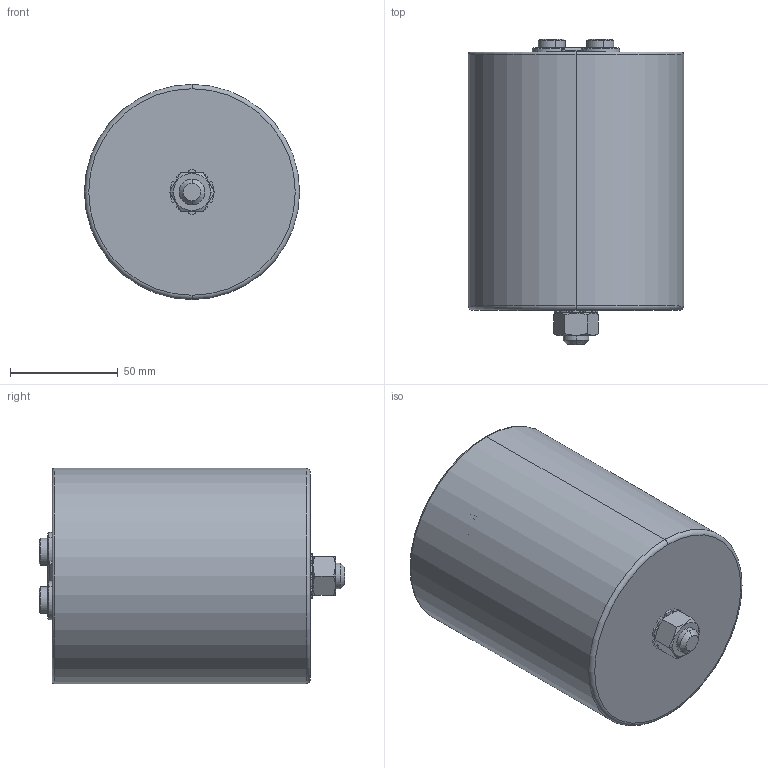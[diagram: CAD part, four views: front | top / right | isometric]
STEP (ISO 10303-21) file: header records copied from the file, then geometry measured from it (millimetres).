
FILE_DESCRIPTION (( 'STEP AP203' ), '1' );
FILE_NAME ('B25690Ax_100x120_126.STEP', '2021-09-06T09:01:26', ( '' ), ( '' ), 'SwSTEP 2.0', 'SolidWorks 2017', '' );
FILE_SCHEMA (( 'CONFIG_CONTROL_DESIGN' ));
Length unit declared in the file: millimetre
Products named in the file (1): B25690Ax_100x120_126
Bounding box: 100 x 142 x 100 mm (x, y, z)
Volume: 131530.8 mm3; surface area: 121575.3 mm2
Topology: 1 solids, 3 shells, 256 faces, 655 edges, 415 vertices
Faces by surface type: plane 133, cylinder 73, cone 40, torus 10
Entity records: 8057 total; most frequent: CARTESIAN_POINT 1865, ORIENTED_EDGE 1310, DIRECTION 1310, EDGE_CURVE 655, AXIS2_PLACEMENT_3D 516, VERTEX_POINT 415, LINE 278, VECTOR 278
